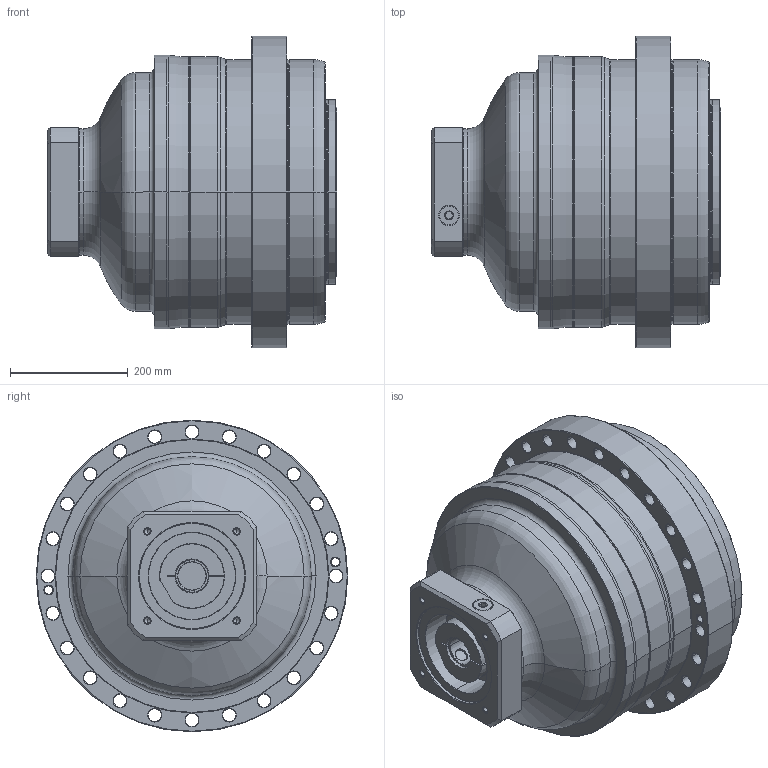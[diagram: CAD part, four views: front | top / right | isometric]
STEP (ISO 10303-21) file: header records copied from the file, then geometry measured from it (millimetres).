
FILE_DESCRIPTION((''),'2;1');
FILE_NAME('AP450_2ST_48-P0409B50201_ASM','2018-06-05T',('d01226'),(''),'PRO/ENGINEER BY PARAMETRIC TECHNOLOGY CORPORATION, 2008410','PRO/ENGINEER BY PARAMETRIC TECHNOLOGY CORPORATION, 2008410','');
FILE_SCHEMA(('CONFIG_CONTROL_DESIGN'));
Length unit declared in the file: millimetre
Products named in the file (9): P0276201003; P0357201103; P1339210301; P0503B00016; P0962203001; P1222200001; P0409B50201; 21711426021; AP450_2ST_48-P0409B50201_ASM
Assembly tree (8 placements, depth 2):
  AP450_2ST_48-P0409B50201_ASM
    P0276201003
    P0357201103
    P1339210301
    P0503B00016
    P0962203001
    P1222200001
    P0409B50201
    21711426021
Bounding box: 493 x 530 x 530 mm (x, y, z)
Volume: 47248325.4 mm3; surface area: 2078370.8 mm2
Topology: 9 solids, 31 shells, 637 faces, 1461 edges, 886 vertices
Faces by surface type: cylinder 250, cone 182, plane 99, torus 92, bspline 14
Entity records: 22910 total; most frequent: CARTESIAN_POINT 7723, DIRECTION 3511, ORIENTED_EDGE 2818, AXIS2_PLACEMENT_3D 1507, EDGE_CURVE 1453, VERTEX_POINT 886, CIRCLE 857, EDGE_LOOP 781
